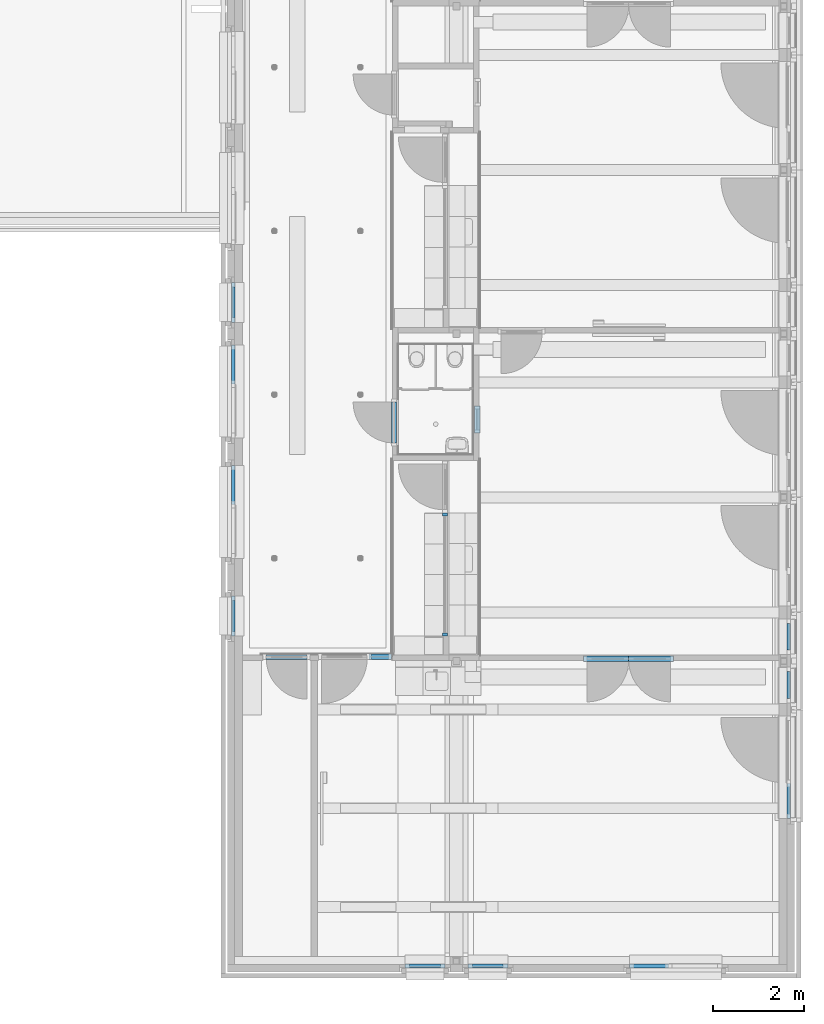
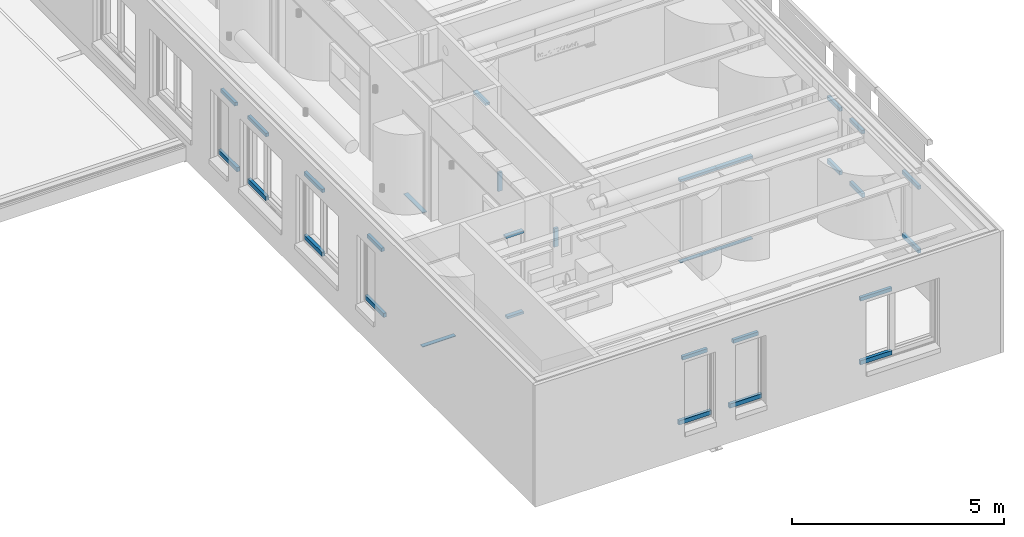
# One storey, part 24 of 128: 31 members, 16 elements without a shape of their own.
"""IFC2X3 building model written with IfcOpenShell, lengths in millimetres."""

from ifc_helpers import new_model, entity, si_unit, converted_unit, derived_unit, direction, frame, frame_2d, origin, origin_2d_with_axis, place, context, subcontext, project, spatial, rectangle, extrude, source, transform, mapped, material, type_object, type_shapes, element, aggregate, save


model = new_model("IFC2X3")

# Units and contexts
model_context = context("Model", 3, precision=0.01, world=origin(), true_north=direction((6.123031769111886e-17, 1.0)))
body_context = subcontext(model_context, "Body", "Model", "MODEL_VIEW")
ifc_project = project(units=[si_unit("LENGTHUNIT", "METRE", prefix="MILLI"), si_unit("AREAUNIT", "SQUARE_METRE"), si_unit("VOLUMEUNIT", "CUBIC_METRE"), converted_unit("PLANEANGLEUNIT", "DEGREE", entity("IfcRatioMeasure", 0.017453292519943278), si_unit("PLANEANGLEUNIT", "RADIAN"), dimensions=[0, 0, 0, 0, 0, 0, 0]), si_unit("MASSUNIT", "GRAM", prefix="KILO"), derived_unit("MASSDENSITYUNIT", [(si_unit("MASSUNIT", "GRAM", prefix="KILO"), 1), (si_unit("LENGTHUNIT", "METRE"), -3)]), derived_unit("IONCONCENTRATIONUNIT", [(si_unit("MASSUNIT", "GRAM", prefix="KILO"), 1), (si_unit("LENGTHUNIT", "METRE"), -3)]), derived_unit("MOMENTOFINERTIAUNIT", [(si_unit("LENGTHUNIT", "METRE"), 4)]), si_unit("TIMEUNIT", "SECOND"), si_unit("FREQUENCYUNIT", "HERTZ"), si_unit("THERMODYNAMICTEMPERATUREUNIT", "DEGREE_CELSIUS"), derived_unit("THERMALTRANSMITTANCEUNIT", [(si_unit("MASSUNIT", "GRAM", prefix="KILO"), 1), (si_unit("THERMODYNAMICTEMPERATUREUNIT", "KELVIN"), -1), (si_unit("TIMEUNIT", "SECOND"), -3)]), derived_unit("THERMALCONDUCTANCEUNIT", [(si_unit("MASSUNIT", "GRAM", prefix="KILO"), 1), (si_unit("THERMODYNAMICTEMPERATUREUNIT", "KELVIN"), -1), (si_unit("TIMEUNIT", "SECOND"), -3), (si_unit("LENGTHUNIT", "METRE"), 1)]), derived_unit("VOLUMETRICFLOWRATEUNIT", [(si_unit("LENGTHUNIT", "METRE"), 3), (si_unit("TIMEUNIT", "SECOND"), -1)]), derived_unit("MASSFLOWRATEUNIT", [(si_unit("MASSUNIT", "GRAM", prefix="KILO"), 1), (si_unit("TIMEUNIT", "SECOND"), -1)]), derived_unit("ROTATIONALFREQUENCYUNIT", [(si_unit("TIMEUNIT", "SECOND"), -1)]), si_unit("ELECTRICCURRENTUNIT", "AMPERE"), si_unit("ELECTRICVOLTAGEUNIT", "VOLT"), si_unit("POWERUNIT", "WATT"), si_unit("FORCEUNIT", "NEWTON", prefix="KILO"), si_unit("ILLUMINANCEUNIT", "LUX"), si_unit("LUMINOUSFLUXUNIT", "LUMEN"), si_unit("LUMINOUSINTENSITYUNIT", "CANDELA"), derived_unit("USERDEFINED", [(si_unit("MASSUNIT", "GRAM", prefix="KILO"), -1), (si_unit("LENGTHUNIT", "METRE"), -2), (si_unit("TIMEUNIT", "SECOND"), 3), (si_unit("LUMINOUSFLUXUNIT", "LUMEN"), 1)]), derived_unit("USERDEFINED", [(si_unit("MASSUNIT", "GRAM", prefix="KILO"), 1), (si_unit("TIMEUNIT", "SECOND"), -3), (si_unit("LENGTHUNIT", "METRE"), 3), (si_unit("ELECTRICCURRENTUNIT", "AMPERE"), -2)]), derived_unit("SOUNDPOWERUNIT", [(si_unit("MASSUNIT", "GRAM", prefix="KILO"), 1), (si_unit("TIMEUNIT", "SECOND"), -3), (si_unit("LENGTHUNIT", "METRE"), 2)]), derived_unit("SOUNDPRESSUREUNIT", [(si_unit("MASSUNIT", "GRAM", prefix="KILO"), 1), (si_unit("LENGTHUNIT", "METRE"), -1), (si_unit("TIMEUNIT", "SECOND"), -2)]), derived_unit("LINEARVELOCITYUNIT", [(si_unit("LENGTHUNIT", "METRE"), 1), (si_unit("TIMEUNIT", "SECOND"), -1)]), si_unit("PRESSUREUNIT", "PASCAL"), derived_unit("USERDEFINED", [(si_unit("MASSUNIT", "GRAM", prefix="KILO"), 1), (si_unit("LENGTHUNIT", "METRE"), -2), (si_unit("TIMEUNIT", "SECOND"), -2)]), derived_unit("LINEARFORCEUNIT", [(si_unit("MASSUNIT", "GRAM", prefix="KILO"), 1), (si_unit("TIMEUNIT", "SECOND"), -2)]), derived_unit("PLANARFORCEUNIT", [(si_unit("MASSUNIT", "GRAM", prefix="KILO"), 1), (si_unit("LENGTHUNIT", "METRE"), -1), (si_unit("TIMEUNIT", "SECOND"), -2)]), derived_unit("SPECIFICHEATCAPACITYUNIT", [(si_unit("THERMODYNAMICTEMPERATUREUNIT", "KELVIN"), -1), (si_unit("LENGTHUNIT", "METRE"), 2), (si_unit("TIMEUNIT", "SECOND"), -2)]), derived_unit("HEATINGVALUEUNIT", [(si_unit("LENGTHUNIT", "METRE"), 2), (si_unit("TIMEUNIT", "SECOND"), -2)]), derived_unit("VAPORPERMEABILITYUNIT", [(si_unit("LENGTHUNIT", "METRE"), -1), (si_unit("TIMEUNIT", "SECOND"), 1)]), derived_unit("DYNAMICVISCOSITYUNIT", [(si_unit("MASSUNIT", "GRAM", prefix="KILO"), 1), (si_unit("TIMEUNIT", "SECOND"), -1), (si_unit("LENGTHUNIT", "METRE"), -1)]), derived_unit("THERMALEXPANSIONCOEFFICIENTUNIT", [(si_unit("THERMODYNAMICTEMPERATUREUNIT", "KELVIN"), -1)]), derived_unit("MODULUSOFELASTICITYUNIT", [(si_unit("MASSUNIT", "GRAM", prefix="KILO"), 1), (si_unit("LENGTHUNIT", "METRE"), -1), (si_unit("TIMEUNIT", "SECOND"), -2)]), derived_unit("ISOTHERMALMOISTURECAPACITYUNIT", [(si_unit("LENGTHUNIT", "METRE"), 3), (si_unit("MASSUNIT", "GRAM", prefix="KILO"), -1)]), derived_unit("MOISTUREDIFFUSIVITYUNIT", [(si_unit("TIMEUNIT", "SECOND"), -1), (si_unit("LENGTHUNIT", "METRE"), 2)])], contexts=[model_context])

# Site, building, storey
site_placement = place(None, frame((0.0, 300.0, 0.0)))
site = spatial("IfcSite", under=ifc_project, at=site_placement, Name="<Kadastrale nummers>", CompositionType="ELEMENT")
building_placement = place(site_placement, origin())
building = spatial("IfcBuilding", under=site, at=building_placement, CompositionType="ELEMENT")
storey_placement = place(building_placement, frame((0.0, 0.0, 3560.0000331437)))
storey = spatial("IfcBuildingStorey", under=building, at=storey_placement, Name="01 eerste verdieping", CompositionType="ELEMENT", Elevation=3560.0000331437)

# Curtain wall, member
curtain_wall_type_1 = type_object("IfcCurtainWallType", Name="Curtain Wall:Merk H01", PredefinedType="NOTDEFINED")
curtain_wall_1_placement = place(storey_placement, frame((0.0, 0.0, -3560.0000331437)))
curtain_wall_1 = element("IfcCurtainWall", 1, at=curtain_wall_1_placement, inside=storey, type_object=curtain_wall_type_1, Name="Curtain Wall:Merk H01", ObjectType="Curtain Wall:Merk H01")
ifc_material_1 = material(Name="ISR_Kunststof_grijs")
member_type_1 = type_object("IfcMemberType", Name="Rectangular Mullion:31_CWM_020x114", PredefinedType="MULLION", material=ifc_material_1)
shared_shape_1 = source(origin(), body_context, "Body", "SweptSolid", [
    extrude(rectangle(XDim=113.99999999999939, YDim=20.0, at=origin_2d_with_axis()), frame((-10.0, -57.0, -900.0), z_axis=(0.0, 0.0, 1.0), x_axis=(0.0, -1.0, 0.0)), (0.0, 0.0, 1.0), 899.999999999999),
])
type_shapes(member_type_1, [shared_shape_1])
member_1_placement = place(curtain_wall_1_placement, frame((40084.0, 14095.99724655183, 3650.00003501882), z_axis=(0.0, -1.0, 0.0), x_axis=(0.0, 0.0, -1.0)))
member_1 = element("IfcMember", 2, at=member_1_placement, type_object=member_type_1, material=ifc_material_1, Name="Rectangular Mullion:31_CWM_020x114", ObjectType="Rectangular Mullion:31_CWM_020x114", context=body_context, shape_type="MappedRepresentation", body=[
    mapped(shared_shape_1, transform((0.0, 0.0, 0.0), scale=1.0)),
])
aggregate(curtain_wall_1, [member_1])

curtain_wall_type_2 = type_object("IfcCurtainWallType", Name="Curtain Wall:Merk H16", PredefinedType="NOTDEFINED")
curtain_wall_2_placement = place(storey_placement, frame((0.0, 0.0, -3560.0000331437)))
curtain_wall_2 = element("IfcCurtainWall", 3, at=curtain_wall_2_placement, inside=storey, type_object=curtain_wall_type_2, Name="Curtain Wall:Merk H16", ObjectType="Curtain Wall:Merk H16")
member_type_2 = type_object("IfcMemberType", Name="Rectangular Mullion:31_CWM_020x114", PredefinedType="MULLION", material=ifc_material_1)
shared_shape_2 = source(origin(), body_context, "Body", "SweptSolid", [
    extrude(rectangle(XDim=113.99999999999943, YDim=20.0, at=origin_2d_with_axis()), frame((-10.0, 57.0, -900.0), z_axis=(0.0, 0.0, 1.0), x_axis=(0.0, -1.0, 0.0)), (0.0, 0.0, 1.0), 899.999999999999),
])
type_shapes(member_type_2, [shared_shape_2])
member_2_placement = place(curtain_wall_2_placement, frame((37218.0, 9444.99862327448, 3650.00003501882), z_axis=(-1.0, 0.0, 0.0), x_axis=(0.0, 0.0, -1.0)))
member_2 = element("IfcMember", 4, at=member_2_placement, type_object=member_type_2, material=ifc_material_1, Name="Rectangular Mullion:31_CWM_020x114", ObjectType="Rectangular Mullion:31_CWM_020x114", context=body_context, shape_type="MappedRepresentation", body=[
    mapped(shared_shape_2, transform((0.0, 0.0, 0.0), scale=1.0)),
])
aggregate(curtain_wall_2, [member_2])

# Curtain wall, members
curtain_wall_type_3 = type_object("IfcCurtainWallType", Name="Curtain Wall:Merk H07", PredefinedType="NOTDEFINED")
curtain_wall_3_placement = place(storey_placement, frame((0.0, 0.0, -3560.0000331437)))
curtain_wall_3 = element("IfcCurtainWall", 5, at=curtain_wall_3_placement, inside=storey, type_object=curtain_wall_type_3, Name="Curtain Wall:Merk H07", ObjectType="Curtain Wall:Merk H07")
ifc_material_2 = material(Name="ISR_HPL")
member_type_3 = type_object("IfcMemberType", Name="Rectangular Mullion:31_CWM_067x114", PredefinedType="MULLION", material=ifc_material_2)
shared_shape_3 = source(origin(), body_context, "Body", "SweptSolid", [
    extrude(rectangle(XDim=113.99999999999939, YDim=67.0, at=origin_2d_with_axis()), frame((-33.5, 57.0, -990.0), z_axis=(0.0, 0.0, 1.0), x_axis=(0.0, -1.0, 0.0)), (0.0, 0.0, 1.0), 989.9999999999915),
])
type_shapes(member_type_3, [shared_shape_3])
member_3_placement = place(curtain_wall_3_placement, frame((46180.0, 9408.99862327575, 6040.0000331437), z_axis=(1.0, 0.0, 0.0), x_axis=(0.0, 0.0, 1.0)))
member_3 = element("IfcMember", 6, at=member_3_placement, type_object=member_type_3, material=ifc_material_2, Name="Rectangular Mullion:31_CWM_067x114", ObjectType="Rectangular Mullion:31_CWM_067x114", context=body_context, shape_type="MappedRepresentation", body=[
    mapped(shared_shape_3, transform((0.0, 0.0, 0.0), scale=1.0)),
])
member_type_4 = type_object("IfcMemberType", Name="Rectangular Mullion:31_CWM_020x114", PredefinedType="MULLION", material=ifc_material_1)
shared_shape_4 = source(origin(), body_context, "Body", "SweptSolid", [
    extrude(rectangle(XDim=113.99999999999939, YDim=20.0, at=origin_2d_with_axis()), frame((-10.0, 57.0, -990.0), z_axis=(0.0, 0.0, 1.0), x_axis=(0.0, -1.0, 0.0)), (0.0, 0.0, 1.0), 990.0000000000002),
])
type_shapes(member_type_4, [shared_shape_4])
member_4_placement = place(curtain_wall_3_placement, frame((44200.0, 9408.998623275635, 3650.000035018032), z_axis=(-1.0, 0.0, 0.0), x_axis=(0.0, 0.0, -1.0)))
member_4 = element("IfcMember", 7, at=member_4_placement, type_object=member_type_4, material=ifc_material_1, Name="Rectangular Mullion:31_CWM_020x114", ObjectType="Rectangular Mullion:31_CWM_020x114", context=body_context, shape_type="MappedRepresentation", body=[
    mapped(shared_shape_4, transform((0.0, 0.0, 0.0), scale=1.0)),
])
member_type_5 = type_object("IfcMemberType", Name="Rectangular Mullion:31_CWM_067x114", PredefinedType="MULLION", material=ifc_material_2)
shared_shape_5 = source(origin(), body_context, "Body", "SweptSolid", [
    extrude(rectangle(XDim=113.99999999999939, YDim=67.0, at=origin_2d_with_axis()), frame((-33.5, 57.0, -990.0), z_axis=(0.0, 0.0, 1.0), x_axis=(0.0, -1.0, 0.0)), (0.0, 0.0, 1.0), 989.9999999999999),
])
type_shapes(member_type_5, [shared_shape_5])
member_5_placement = place(curtain_wall_3_placement, frame((45190.0, 9408.998623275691, 6040.0000331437), z_axis=(1.0, 0.0, 0.0), x_axis=(0.0, 0.0, 1.0)))
member_5 = element("IfcMember", 8, at=member_5_placement, type_object=member_type_5, material=ifc_material_2, Name="Rectangular Mullion:31_CWM_067x114", ObjectType="Rectangular Mullion:31_CWM_067x114", context=body_context, shape_type="MappedRepresentation", body=[
    mapped(shared_shape_5, transform((0.0, 0.0, 0.0), scale=1.0)),
])
member_type_6 = type_object("IfcMemberType", Name="Rectangular Mullion:31_CWM_020x114", PredefinedType="MULLION", material=ifc_material_1)
shared_shape_6 = source(origin(), body_context, "Body", "SweptSolid", [
    extrude(rectangle(XDim=113.99999999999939, YDim=20.0, at=origin_2d_with_axis()), frame((-10.0, 57.0, -990.0), z_axis=(0.0, 0.0, 1.0), x_axis=(0.0, -1.0, 0.0)), (0.0, 0.0, 1.0), 989.9999999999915),
])
type_shapes(member_type_6, [shared_shape_6])
member_6_placement = place(curtain_wall_3_placement, frame((45190.0, 9408.998623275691, 3650.000035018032), z_axis=(-1.0, 0.0, 0.0), x_axis=(0.0, 0.0, -1.0)))
member_6 = element("IfcMember", 9, at=member_6_placement, type_object=member_type_6, material=ifc_material_1, Name="Rectangular Mullion:31_CWM_020x114", ObjectType="Rectangular Mullion:31_CWM_020x114", context=body_context, shape_type="MappedRepresentation", body=[
    mapped(shared_shape_6, transform((0.0, 0.0, 0.0), scale=1.0)),
])
aggregate(curtain_wall_3, [member_3, member_4, member_5, member_6])

curtain_wall_type_4 = type_object("IfcCurtainWallType", Name="Curtain Wall:Merk H08", PredefinedType="NOTDEFINED")
curtain_wall_4_placement = place(storey_placement, frame((0.0, 0.0, -3560.0000331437)))
curtain_wall_4 = element("IfcCurtainWall", 10, at=curtain_wall_4_placement, inside=storey, type_object=curtain_wall_type_4, Name="Curtain Wall:Merk H08", ObjectType="Curtain Wall:Merk H08")
member_type_7 = type_object("IfcMemberType", Name="Rectangular Mullion:31_CWM_067x114", PredefinedType="MULLION", material=ifc_material_2)
shared_shape_7 = source(origin(), body_context, "Body", "SweptSolid", [
    extrude(rectangle(XDim=113.99999999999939, YDim=67.0, at=origin_2d_with_axis()), frame((-33.5, -57.0, -533.0), z_axis=(0.0, 0.0, 1.0), x_axis=(0.0, -1.0, 0.0)), (0.0, 0.0, 1.0), 533.0000000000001),
])
type_shapes(member_type_7, [shared_shape_7])
member_7_placement = place(curtain_wall_4_placement, frame((41209.0, 12560.997246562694, 4850.0000331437), z_axis=(0.0, 0.0, -1.0), x_axis=(0.0, 1.0, 0.0)))
member_7 = element("IfcMember", 11, at=member_7_placement, type_object=member_type_7, material=ifc_material_2, Name="Rectangular Mullion:31_CWM_067x114", ObjectType="Rectangular Mullion:31_CWM_067x114", context=body_context, shape_type="MappedRepresentation", body=[
    mapped(shared_shape_7, transform((0.0, 0.0, 0.0), scale=1.0)),
])
member_type_8 = type_object("IfcMemberType", Name="Rectangular Mullion:31_CWM_067x114", PredefinedType="MULLION", material=ifc_material_2)
shared_shape_8 = source(origin(), body_context, "Body", "SweptSolid", [
    extrude(rectangle(XDim=113.9999999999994, YDim=67.0, at=frame_2d((1.0658141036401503e-14, 0.0), x_axis=(1.0, 0.0))), frame((-33.5, -57.0, -533.0), z_axis=(0.0, 0.0, 1.0), x_axis=(0.0, -1.0, 0.0)), (0.0, 0.0, 1.0), 533.0000000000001),
])
type_shapes(member_type_8, [shared_shape_8])
member_8_placement = place(curtain_wall_4_placement, frame((41209.0, 9850.997246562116, 5383.0000331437), z_axis=(0.0, 0.0, 1.0), x_axis=(0.0, -1.0, 0.0)))
member_8 = element("IfcMember", 12, at=member_8_placement, type_object=member_type_8, material=ifc_material_2, Name="Rectangular Mullion:31_CWM_067x114", ObjectType="Rectangular Mullion:31_CWM_067x114", context=body_context, shape_type="MappedRepresentation", body=[
    mapped(shared_shape_8, transform((0.0, 0.0, 0.0), scale=1.0)),
])
aggregate(curtain_wall_4, [member_7, member_8])

# Curtain wall, member
curtain_wall_type_5 = type_object("IfcCurtainWallType", Name="Curtain Wall:Merk H05", PredefinedType="NOTDEFINED")
curtain_wall_5_placement = place(storey_placement, frame((0.0, 0.0, -3560.0000331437)))
curtain_wall_5 = element("IfcCurtainWall", 13, at=curtain_wall_5_placement, inside=storey, type_object=curtain_wall_type_5, Name="Curtain Wall:Merk H05", ObjectType="Curtain Wall:Merk H05")
member_type_9 = type_object("IfcMemberType", Name="Rectangular Mullion:31_CWM_067x114", PredefinedType="MULLION", material=ifc_material_2)
shared_shape_9 = source(origin(), body_context, "Body", "SweptSolid", [
    extrude(rectangle(XDim=113.99999999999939, YDim=67.0, at=origin_2d_with_axis()), frame((-33.5, 57.0, -600.0), z_axis=(0.0, 0.0, 1.0), x_axis=(0.0, -1.0, 0.0)), (0.0, 0.0, 1.0), 600.0000000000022),
])
type_shapes(member_type_9, [shared_shape_9])
member_9_placement = place(curtain_wall_5_placement, frame((41801.0, 14909.998623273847, 6040.0000331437), z_axis=(0.0, 1.0, 0.0), x_axis=(0.0, 0.0, 1.0)))
member_9 = element("IfcMember", 14, at=member_9_placement, type_object=member_type_9, material=ifc_material_2, Name="Rectangular Mullion:31_CWM_067x114", ObjectType="Rectangular Mullion:31_CWM_067x114", context=body_context, shape_type="MappedRepresentation", body=[
    mapped(shared_shape_9, transform((0.0, 0.0, 0.0), scale=1.0)),
])
aggregate(curtain_wall_5, [member_9])

# Curtain wall, members
curtain_wall_type_6 = type_object("IfcCurtainWallType", Name="Curtain Wall:Merk H18", PredefinedType="NOTDEFINED")
curtain_wall_6_placement = place(storey_placement, frame((0.0, 0.0, -3560.0000331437)))
curtain_wall_6 = element("IfcCurtainWall", 15, at=curtain_wall_6_placement, inside=storey, type_object=curtain_wall_type_6, Name="Curtain Wall:Merk H18", ObjectType="Curtain Wall:Merk H18")
member_type_10 = type_object("IfcMemberType", Name="Rectangular Mullion:31_CWM_067x114", PredefinedType="MULLION", material=ifc_material_2)
shared_shape_10 = source(origin(), body_context, "Body", "SweptSolid", [
    extrude(rectangle(XDim=113.9999999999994, YDim=67.0, at=frame_2d((1.0658141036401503e-14, 0.0), x_axis=(1.0, 0.0))), frame((-33.5, -57.0, -443.0), z_axis=(0.0, 0.0, 1.0), x_axis=(0.0, -1.0, 0.0)), (0.0, 0.0, 1.0), 442.99999999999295),
])
type_shapes(member_type_10, [shared_shape_10])
member_10_placement = place(curtain_wall_6_placement, frame((39971.249999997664, 9449.998623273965, 3650.0000350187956), z_axis=(1.0, 0.0, 0.0), x_axis=(0.0, 0.0, -1.0)))
member_10 = element("IfcMember", 16, at=member_10_placement, type_object=member_type_10, material=ifc_material_2, Name="Rectangular Mullion:31_CWM_067x114", ObjectType="Rectangular Mullion:31_CWM_067x114", context=body_context, shape_type="MappedRepresentation", body=[
    mapped(shared_shape_10, transform((0.0, 0.0, 0.0), scale=1.0)),
])
member_type_11 = type_object("IfcMemberType", Name="Rectangular Mullion:31_CWM_067x114", PredefinedType="MULLION", material=ifc_material_2)
shared_shape_11 = source(origin(), body_context, "Body", "SweptSolid", [
    extrude(rectangle(XDim=113.9999999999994, YDim=67.0, at=frame_2d((1.0658141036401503e-14, 0.0), x_axis=(1.0, 0.0))), frame((-33.5, -57.0, -488.0), z_axis=(0.0, 0.0, 1.0), x_axis=(0.0, -1.0, 0.0)), (0.0, 0.0, 1.0), 487.999999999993),
])
type_shapes(member_type_11, [shared_shape_11])
member_11_placement = place(curtain_wall_6_placement, frame((39483.24999999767, 9449.998623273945, 6040.0000331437), z_axis=(-1.0, 0.0, 0.0), x_axis=(0.0, 0.0, 1.0)))
member_11 = element("IfcMember", 17, at=member_11_placement, type_object=member_type_11, material=ifc_material_2, Name="Rectangular Mullion:31_CWM_067x114", ObjectType="Rectangular Mullion:31_CWM_067x114", context=body_context, shape_type="MappedRepresentation", body=[
    mapped(shared_shape_11, transform((0.0, 0.0, 0.0), scale=1.0)),
])
aggregate(curtain_wall_6, [member_10, member_11])

# Curtain wall, member
curtain_wall_type_7 = type_object("IfcCurtainWallType", Name="Curtain Wall:K_29", PredefinedType="NOTDEFINED")
curtain_wall_7_placement = place(storey_placement, frame((0.0, 0.0, -3560.0000331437)))
curtain_wall_7 = element("IfcCurtainWall", 18, at=curtain_wall_7_placement, inside=storey, type_object=curtain_wall_type_7, Name="Curtain Wall:K_29", ObjectType="Curtain Wall:K_29")
ifc_material_3 = material(Name="ISR_Kunststof_RAL7006")
member_type_12 = type_object("IfcMemberType", Name="Rectangular Mullion:100x83 Gealan Kubus", PredefinedType="MULLION", material=ifc_material_3)
shared_shape_12 = source(origin(), body_context, "Body", "SweptSolid", [
    extrude(rectangle(XDim=83.0, YDim=100.0, at=origin_2d_with_axis()), frame((-50.0, 41.5, -590.0), z_axis=(0.0, 0.0, 1.0), x_axis=(0.0, -1.0, 0.0)), (0.0, 0.0, 1.0), 590.0000000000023),
])
type_shapes(member_type_12, [shared_shape_12])
member_12_placement = place(curtain_wall_7_placement, frame((48668.0, 10130.0, 6390.0), z_axis=(0.0, 1.0, 0.0), x_axis=(0.0, 0.0, 1.0)))
member_12 = element("IfcMember", 19, at=member_12_placement, type_object=member_type_12, material=ifc_material_3, Name="Rectangular Mullion:100x83 Gealan Kubus", ObjectType="Rectangular Mullion:100x83 Gealan Kubus", context=body_context, shape_type="MappedRepresentation", body=[
    mapped(shared_shape_12, transform((0.0, 0.0, 0.0), scale=1.0)),
])

curtain_wall_8_placement = place(storey_placement, frame((0.0, 0.0, -3560.0000331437)))
curtain_wall_8 = element("IfcCurtainWall", 20, at=curtain_wall_8_placement, inside=storey, type_object=curtain_wall_type_7, Name="Curtain Wall:K_29", ObjectType="Curtain Wall:K_29")
member_13_placement = place(curtain_wall_8_placement, frame((48668.0, 9068.0, 6390.0), z_axis=(0.0, 1.0, 0.0), x_axis=(0.0, 0.0, 1.0)))
member_13 = element("IfcMember", 21, at=member_13_placement, type_object=member_type_12, material=ifc_material_3, Name="Rectangular Mullion:100x83 Gealan Kubus", ObjectType="Rectangular Mullion:100x83 Gealan Kubus", context=body_context, shape_type="MappedRepresentation", body=[
    mapped(shared_shape_12, transform((0.0, 0.0, 0.0), scale=1.0)),
])

# Member
member_type_13 = type_object("IfcMemberType", Name="Rectangular Mullion:120x83 Gealan Kubus", PredefinedType="MULLION", material=ifc_material_3)
shared_shape_13 = source(origin(), body_context, "Body", "SweptSolid", [
    extrude(rectangle(XDim=83.00000000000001, YDim=120.0, at=origin_2d_with_axis()), frame((-60.0, 41.50000000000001, -590.0), z_axis=(0.0, 0.0, 1.0), x_axis=(0.0, -1.0, 0.0)), (0.0, 0.0, 1.0), 590.0000000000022),
])
type_shapes(member_type_13, [shared_shape_13])
member_14_placement = place(curtain_wall_7_placement, frame((48668.0, 9540.0, 4460.000035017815), z_axis=(0.0, -1.0, 0.0), x_axis=(0.0, 0.0, -1.0)))
member_14 = element("IfcMember", 22, at=member_14_placement, type_object=member_type_13, material=ifc_material_3, Name="Rectangular Mullion:120x83 Gealan Kubus", ObjectType="Rectangular Mullion:120x83 Gealan Kubus", context=body_context, shape_type="MappedRepresentation", body=[
    mapped(shared_shape_13, transform((0.0, 0.0, 0.0), scale=1.0)),
])

aggregate(curtain_wall_7, [member_12, member_14])

member_15_placement = place(curtain_wall_8_placement, frame((48668.0, 8478.0, 4460.000035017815), z_axis=(0.0, -1.0, 0.0), x_axis=(0.0, 0.0, -1.0)))
member_15 = element("IfcMember", 23, at=member_15_placement, type_object=member_type_13, material=ifc_material_3, Name="Rectangular Mullion:120x83 Gealan Kubus", ObjectType="Rectangular Mullion:120x83 Gealan Kubus", context=body_context, shape_type="MappedRepresentation", body=[
    mapped(shared_shape_13, transform((0.0, 0.0, 0.0), scale=1.0)),
])

aggregate(curtain_wall_8, [member_13, member_15])

# Curtain wall, members
curtain_wall_type_8 = type_object("IfcCurtainWallType", Name="Curtain Wall:K_22", PredefinedType="NOTDEFINED")
curtain_wall_9_placement = place(storey_placement, frame((0.0, 0.0, -3560.0000331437)))
curtain_wall_9 = element("IfcCurtainWall", 24, at=curtain_wall_9_placement, inside=storey, type_object=curtain_wall_type_8, Name="Curtain Wall:K_22", ObjectType="Curtain Wall:K_22")
member_type_14 = type_object("IfcMemberType", Name="Rectangular Mullion:120x83 Gealan Kubus", PredefinedType="MULLION", material=ifc_material_3)
shared_shape_14 = source(origin(), body_context, "Body", "SweptSolid", [
    extrude(rectangle(XDim=83.00000000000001, YDim=120.0, at=origin_2d_with_axis()), frame((-60.0, 41.50000000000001, -767.0), z_axis=(0.0, 0.0, 1.0), x_axis=(0.0, -1.0, 0.0)), (0.0, 0.0, 1.0), 766.9999999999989),
])
type_shapes(member_type_14, [shared_shape_14])
member_16_placement = place(curtain_wall_9_placement, frame((48668.0, 5840.0, 4460.000035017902), z_axis=(0.0, -1.0, 0.0), x_axis=(0.0, 0.0, -1.0)))
member_16 = element("IfcMember", 25, at=member_16_placement, type_object=member_type_14, material=ifc_material_3, Name="Rectangular Mullion:120x83 Gealan Kubus", ObjectType="Rectangular Mullion:120x83 Gealan Kubus", context=body_context, shape_type="MappedRepresentation", body=[
    mapped(shared_shape_14, transform((0.0, 0.0, 0.0), scale=1.0)),
])
member_type_15 = type_object("IfcMemberType", Name="Rectangular Mullion:100x83 Gealan Kubus", PredefinedType="MULLION", material=ifc_material_3)
shared_shape_15 = source(origin(), body_context, "Body", "SweptSolid", [
    extrude(rectangle(XDim=83.0, YDim=100.0, at=origin_2d_with_axis()), frame((-50.0, 41.5, -767.0), z_axis=(0.0, 0.0, 1.0), x_axis=(0.0, -1.0, 0.0)), (0.0, 0.0, 1.0), 766.9999999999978),
])
type_shapes(member_type_15, [shared_shape_15])
member_17_placement = place(curtain_wall_9_placement, frame((48668.0, 6607.0, 6390.0), z_axis=(0.0, 1.0, 0.0), x_axis=(0.0, 0.0, 1.0)))
member_17 = element("IfcMember", 26, at=member_17_placement, type_object=member_type_15, material=ifc_material_3, Name="Rectangular Mullion:100x83 Gealan Kubus", ObjectType="Rectangular Mullion:100x83 Gealan Kubus", context=body_context, shape_type="MappedRepresentation", body=[
    mapped(shared_shape_15, transform((0.0, 0.0, 0.0), scale=1.0)),
])
aggregate(curtain_wall_9, [member_16, member_17])

# Curtain wall, member
curtain_wall_type_9 = type_object("IfcCurtainWallType", Name="Curtain Wall:K_24", PredefinedType="NOTDEFINED")
curtain_wall_10_placement = place(storey_placement, frame((0.0, 0.0, -3560.0000331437)))
curtain_wall_10 = element("IfcCurtainWall", 27, at=curtain_wall_10_placement, inside=storey, type_object=curtain_wall_type_9, Name="Curtain Wall:K_24", ObjectType="Curtain Wall:K_24")
member_type_16 = type_object("IfcMemberType", Name="Rectangular Mullion:120x83 Gealan Kubus", PredefinedType="MULLION", material=ifc_material_3)
shared_shape_16 = source(origin(), body_context, "Body", "SweptSolid", [
    extrude(rectangle(XDim=83.00000000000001, YDim=120.0, at=origin_2d_with_axis()), frame((-60.0, 41.50000000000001, -857.0), z_axis=(0.0, 0.0, 1.0), x_axis=(0.0, -1.0, 0.0)), (0.0, 0.0, 1.0), 857.0),
])
type_shapes(member_type_16, [shared_shape_16])
member_18_placement = place(curtain_wall_10_placement, frame((36531.99862327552, 13600.0, 4460.000035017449), z_axis=(0.0, 1.0, 0.0), x_axis=(0.0, 0.0, -1.0)))
member_18 = element("IfcMember", 28, at=member_18_placement, type_object=member_type_16, material=ifc_material_3, Name="Rectangular Mullion:120x83 Gealan Kubus", ObjectType="Rectangular Mullion:120x83 Gealan Kubus", context=body_context, shape_type="MappedRepresentation", body=[
    mapped(shared_shape_16, transform((0.0, 0.0, 0.0), scale=1.0)),
])

curtain_wall_11_placement = place(storey_placement, frame((0.0, 0.0, -3560.0000331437)))
curtain_wall_11 = element("IfcCurtainWall", 29, at=curtain_wall_11_placement, inside=storey, type_object=curtain_wall_type_9, Name="Curtain Wall:K_24", ObjectType="Curtain Wall:K_24")
member_19_placement = place(curtain_wall_11_placement, frame((36531.99862327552, 16250.0, 4460.000035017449), z_axis=(0.0, 1.0, 0.0), x_axis=(0.0, 0.0, -1.0)))
member_19 = element("IfcMember", 30, at=member_19_placement, type_object=member_type_16, material=ifc_material_3, Name="Rectangular Mullion:120x83 Gealan Kubus", ObjectType="Rectangular Mullion:120x83 Gealan Kubus", context=body_context, shape_type="MappedRepresentation", body=[
    mapped(shared_shape_16, transform((0.0, 0.0, 0.0), scale=1.0)),
])

curtain_wall_12_placement = place(storey_placement, frame((0.0, 0.0, -3560.0000331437)))
curtain_wall_12 = element("IfcCurtainWall", 31, at=curtain_wall_12_placement, inside=storey, type_object=curtain_wall_type_9, Name="Curtain Wall:K_24", ObjectType="Curtain Wall:K_24")
member_20_placement = place(curtain_wall_12_placement, frame((45205.0, 2631.9986232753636, 4460.000035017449), z_axis=(-1.0, 0.0, 0.0), x_axis=(0.0, 0.0, -1.0)))
member_20 = element("IfcMember", 32, at=member_20_placement, type_object=member_type_16, material=ifc_material_3, Name="Rectangular Mullion:120x83 Gealan Kubus", ObjectType="Rectangular Mullion:120x83 Gealan Kubus", context=body_context, shape_type="MappedRepresentation", body=[
    mapped(shared_shape_16, transform((0.0, 0.0, 0.0), scale=1.0)),
])

# Member
member_type_17 = type_object("IfcMemberType", Name="Rectangular Mullion:100x83 Gealan Kubus", PredefinedType="MULLION", material=ifc_material_3)
shared_shape_17 = source(origin(), body_context, "Body", "SweptSolid", [
    extrude(rectangle(XDim=83.0, YDim=100.0, at=origin_2d_with_axis()), frame((-50.0, 41.5, -857.0), z_axis=(0.0, 0.0, 1.0), x_axis=(0.0, -1.0, 0.0)), (0.0, 0.0, 1.0), 857.0000000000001),
])
type_shapes(member_type_17, [shared_shape_17])
member_21_placement = place(curtain_wall_10_placement, frame((36531.998623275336, 12743.0, 6390.000035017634), z_axis=(0.0, -1.0, 0.0), x_axis=(0.0, 0.0, 1.0)))
member_21 = element("IfcMember", 33, at=member_21_placement, type_object=member_type_17, material=ifc_material_3, Name="Rectangular Mullion:100x83 Gealan Kubus", ObjectType="Rectangular Mullion:100x83 Gealan Kubus", context=body_context, shape_type="MappedRepresentation", body=[
    mapped(shared_shape_17, transform((0.0, 0.0, 0.0), scale=1.0)),
])

aggregate(curtain_wall_10, [member_18, member_21])

member_22_placement = place(curtain_wall_11_placement, frame((36531.998623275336, 15393.0, 6390.000035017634), z_axis=(0.0, -1.0, 0.0), x_axis=(0.0, 0.0, 1.0)))
member_22 = element("IfcMember", 34, at=member_22_placement, type_object=member_type_17, material=ifc_material_3, Name="Rectangular Mullion:100x83 Gealan Kubus", ObjectType="Rectangular Mullion:100x83 Gealan Kubus", context=body_context, shape_type="MappedRepresentation", body=[
    mapped(shared_shape_17, transform((0.0, 0.0, 0.0), scale=1.0)),
])

aggregate(curtain_wall_11, [member_19, member_22])

member_23_placement = place(curtain_wall_12_placement, frame((46062.0, 2631.9986232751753, 6390.000035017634), z_axis=(1.0, 0.0, 0.0), x_axis=(0.0, 0.0, 1.0)))
member_23 = element("IfcMember", 35, at=member_23_placement, type_object=member_type_17, material=ifc_material_3, Name="Rectangular Mullion:100x83 Gealan Kubus", ObjectType="Rectangular Mullion:100x83 Gealan Kubus", context=body_context, shape_type="MappedRepresentation", body=[
    mapped(shared_shape_17, transform((0.0, 0.0, 0.0), scale=1.0)),
])

aggregate(curtain_wall_12, [member_20, member_23])

# Curtain wall, member
curtain_wall_type_10 = type_object("IfcCurtainWallType", Name="Curtain Wall:K_28", PredefinedType="NOTDEFINED")
curtain_wall_13_placement = place(storey_placement, frame((0.0, 0.0, -3560.0000331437)))
curtain_wall_13 = element("IfcCurtainWall", 36, at=curtain_wall_13_placement, inside=storey, type_object=curtain_wall_type_10, Name="Curtain Wall:K_28", ObjectType="Curtain Wall:K_28")
member_type_18 = type_object("IfcMemberType", Name="Rectangular Mullion:100x83 Gealan Kubus", PredefinedType="MULLION", material=ifc_material_3)
shared_shape_18 = source(origin(), body_context, "Body", "SweptSolid", [
    extrude(rectangle(XDim=83.00000000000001, YDim=100.0, at=origin_2d_with_axis()), frame((-50.0, 41.50000000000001, -680.0), z_axis=(0.0, 0.0, 1.0), x_axis=(0.0, -1.0, 0.0)), (0.0, 0.0, 1.0), 679.9999999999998),
])
type_shapes(member_type_18, [shared_shape_18])
member_24_placement = place(curtain_wall_13_placement, frame((36532.0, 16850.0, 6390.00003501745), z_axis=(0.0, -1.0, 0.0), x_axis=(0.0, 0.0, 1.0)))
member_24 = element("IfcMember", 37, at=member_24_placement, type_object=member_type_18, material=ifc_material_3, Name="Rectangular Mullion:100x83 Gealan Kubus", ObjectType="Rectangular Mullion:100x83 Gealan Kubus", context=body_context, shape_type="MappedRepresentation", body=[
    mapped(shared_shape_18, transform((0.0, 0.0, 0.0), scale=1.0)),
])

curtain_wall_14_placement = place(storey_placement, frame((0.0, 0.0, -3560.0000331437)))
curtain_wall_14 = element("IfcCurtainWall", 38, at=curtain_wall_14_placement, inside=storey, type_object=curtain_wall_type_10, Name="Curtain Wall:K_28", ObjectType="Curtain Wall:K_28")
member_25_placement = place(curtain_wall_14_placement, frame((36532.0, 9950.0, 6390.00003501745), z_axis=(0.0, -1.0, 0.0), x_axis=(0.0, 0.0, 1.0)))
member_25 = element("IfcMember", 39, at=member_25_placement, type_object=member_type_18, material=ifc_material_3, Name="Rectangular Mullion:100x83 Gealan Kubus", ObjectType="Rectangular Mullion:100x83 Gealan Kubus", context=body_context, shape_type="MappedRepresentation", body=[
    mapped(shared_shape_18, transform((0.0, 0.0, 0.0), scale=1.0)),
])

curtain_wall_15_placement = place(storey_placement, frame((0.0, 0.0, -3560.0000331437)))
curtain_wall_15 = element("IfcCurtainWall", 40, at=curtain_wall_15_placement, inside=storey, type_object=curtain_wall_type_10, Name="Curtain Wall:K_28", ObjectType="Curtain Wall:K_28")
member_26_placement = place(curtain_wall_15_placement, frame((41050.0, 2631.9986232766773, 6390.00003501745), z_axis=(1.0, 0.0, 0.0), x_axis=(0.0, 0.0, 1.0)))
member_26 = element("IfcMember", 41, at=member_26_placement, type_object=member_type_18, material=ifc_material_3, Name="Rectangular Mullion:100x83 Gealan Kubus", ObjectType="Rectangular Mullion:100x83 Gealan Kubus", context=body_context, shape_type="MappedRepresentation", body=[
    mapped(shared_shape_18, transform((0.0, 0.0, 0.0), scale=1.0)),
])

curtain_wall_16_placement = place(storey_placement, frame((0.0, 0.0, -3560.0000331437)))
curtain_wall_16 = element("IfcCurtainWall", 42, at=curtain_wall_16_placement, inside=storey, type_object=curtain_wall_type_10, Name="Curtain Wall:K_28", ObjectType="Curtain Wall:K_28")
member_27_placement = place(curtain_wall_16_placement, frame((42430.0, 2631.9986232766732, 6390.00003501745), z_axis=(1.0, 0.0, 0.0), x_axis=(0.0, 0.0, 1.0)))
member_27 = element("IfcMember", 43, at=member_27_placement, type_object=member_type_18, material=ifc_material_3, Name="Rectangular Mullion:100x83 Gealan Kubus", ObjectType="Rectangular Mullion:100x83 Gealan Kubus", context=body_context, shape_type="MappedRepresentation", body=[
    mapped(shared_shape_18, transform((0.0, 0.0, 0.0), scale=1.0)),
])

# Member
member_type_19 = type_object("IfcMemberType", Name="Rectangular Mullion:120x83 Gealan Kubus", PredefinedType="MULLION", material=ifc_material_3)
shared_shape_19 = source(origin(), body_context, "Body", "SweptSolid", [
    extrude(rectangle(XDim=82.99999999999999, YDim=120.0, at=origin_2d_with_axis()), frame((-60.0, 41.49999999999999, -880.0), z_axis=(0.0, 0.0, 1.0), x_axis=(0.0, -1.0, 0.0)), (0.0, 0.0, 1.0), 879.9999999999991),
])
type_shapes(member_type_19, [shared_shape_19])
member_28_placement = place(curtain_wall_13_placement, frame((36532.0, 17630.0, 4460.000035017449), z_axis=(0.0, 1.0, 0.0), x_axis=(0.0, 0.0, -1.0)))
member_28 = element("IfcMember", 44, at=member_28_placement, type_object=member_type_19, material=ifc_material_3, Name="Rectangular Mullion:120x83 Gealan Kubus", ObjectType="Rectangular Mullion:120x83 Gealan Kubus", context=body_context, shape_type="MappedRepresentation", body=[
    mapped(shared_shape_19, transform((0.0, 0.0, 0.0), scale=1.0)),
])

aggregate(curtain_wall_13, [member_24, member_28])

member_29_placement = place(curtain_wall_14_placement, frame((36532.0, 10730.0, 4460.000035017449), z_axis=(0.0, 1.0, 0.0), x_axis=(0.0, 0.0, -1.0)))
member_29 = element("IfcMember", 45, at=member_29_placement, type_object=member_type_19, material=ifc_material_3, Name="Rectangular Mullion:120x83 Gealan Kubus", ObjectType="Rectangular Mullion:120x83 Gealan Kubus", context=body_context, shape_type="MappedRepresentation", body=[
    mapped(shared_shape_19, transform((0.0, 0.0, 0.0), scale=1.0)),
])

aggregate(curtain_wall_14, [member_25, member_29])

member_30_placement = place(curtain_wall_15_placement, frame((40270.0, 2631.9986232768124, 4460.000035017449), z_axis=(-1.0, 0.0, 0.0), x_axis=(0.0, 0.0, -1.0)))
member_30 = element("IfcMember", 46, at=member_30_placement, type_object=member_type_19, material=ifc_material_3, Name="Rectangular Mullion:120x83 Gealan Kubus", ObjectType="Rectangular Mullion:120x83 Gealan Kubus", context=body_context, shape_type="MappedRepresentation", body=[
    mapped(shared_shape_19, transform((0.0, 0.0, 0.0), scale=1.0)),
])

aggregate(curtain_wall_15, [member_26, member_30])

member_31_placement = place(curtain_wall_16_placement, frame((41650.0, 2631.998623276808, 4460.000035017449), z_axis=(-1.0, 0.0, 0.0), x_axis=(0.0, 0.0, -1.0)))
member_31 = element("IfcMember", 47, at=member_31_placement, type_object=member_type_19, material=ifc_material_3, Name="Rectangular Mullion:120x83 Gealan Kubus", ObjectType="Rectangular Mullion:120x83 Gealan Kubus", context=body_context, shape_type="MappedRepresentation", body=[
    mapped(shared_shape_19, transform((0.0, 0.0, 0.0), scale=1.0)),
])

aggregate(curtain_wall_16, [member_27, member_31])

save(model, "model.ifc")
